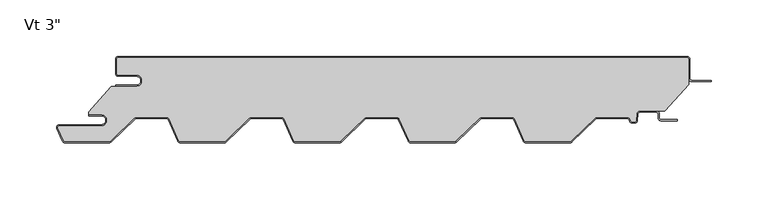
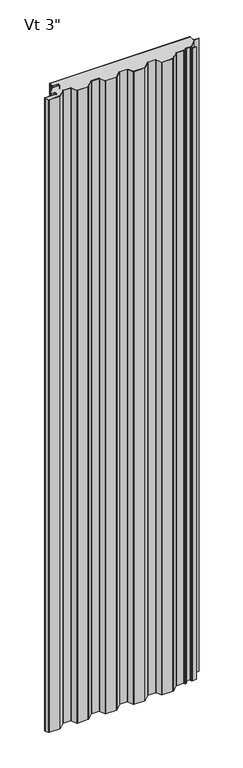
"""IFC4 building model written with IfcOpenShell, lengths in millimetres: plate geometry."""

from ifc_helpers import new_model, si_unit, point, frame_2d, origin, origin_with_axes, place, context, project, spatial, polyline, circle_curve, trimmed, segment, composite_curve, outline, extrude, source, transform, mapped, element, save


def plate_69ded947(model_context):
    return source(origin(), model_context, "Body", "SweptSolid", [
        extrude(outline(composite_curve([segment(trimmed(circle_curve(frame_2d((-234.94375, -21.4324412)), 4.96875), [point((-234.94375, -26.4011912))], [point((-234.94375, -16.4636912))], True, "CARTESIAN"), True, "CONTINUOUS"), segment(polyline([(-234.94375, -16.4636912), (-250.81875, -16.4636912)]), True, "CONTINUOUS"), segment(trimmed(circle_curve(frame_2d((-250.81875, -15.0824412)), 1.38125), [point((-250.81875, -16.4636912))], [point((-252.2, -15.0824412))], False, "CARTESIAN"), True, "CONTINUOUS"), segment(polyline([(-252.2, -15.0824412), (-252.2, -2.3824412)]), True, "CONTINUOUS"), segment(trimmed(circle_curve(frame_2d((-250.81875, -2.3824412)), 1.38125), [point((-252.2, -2.3824412))], [point((-250.81875, -1.0011912))], False, "CARTESIAN"), True, "CONTINUOUS"), segment(polyline([(-250.81875, -1.0011912), (250.83125, -1.0011912)]), True, "CONTINUOUS"), segment(trimmed(circle_curve(frame_2d((250.83125, -2.3824412)), 1.38125), [point((250.83125, -1.0011912))], [point((252.2125, -2.3824412))], False, "CARTESIAN"), True, "CONTINUOUS"), segment(polyline([(252.2125, -2.3824412), (252.2125, -24.8719682), (231.3955434, -48.2136912), (208.9683457, -48.2136912)]), True, "CONTINUOUS"), segment(trimmed(circle_curve(frame_2d((208.9683457, -50.8011912)), 2.5875), [point((208.9683457, -48.2136912))], [point((206.3843918, -50.6657719))], True, "CARTESIAN"), True, "CONTINUOUS"), segment(polyline([(206.3843918, -50.6657719), (206.0823155, -56.4297302)]), True, "CONTINUOUS"), segment(trimmed(circle_curve(frame_2d((204.7029585, -56.3574412)), 1.38125), [point((206.0823155, -56.4297302))], [point((204.7029585, -57.7386912))], False, "CARTESIAN"), True, "CONTINUOUS"), segment(polyline([(204.7029585, -57.7386912), (202.3754519, -57.7386912)]), True, "CONTINUOUS"), segment(trimmed(circle_curve(frame_2d((202.3754519, -56.3574412)), 1.38125), [point((202.3754519, -57.7386912))], [point((201.1124516, -56.9166208))], False, "CARTESIAN"), True, "CONTINUOUS"), segment(polyline([(201.1124516, -56.9166208), (200.3640306, -55.2261871)]), True, "CONTINUOUS"), segment(trimmed(circle_curve(frame_2d((197.9980481, -56.2737)), 2.5875), [point((200.3640306, -55.2261871))], [point((197.9980481, -53.6862))], True, "CARTESIAN"), True, "CONTINUOUS"), segment(polyline([(197.9980481, -53.6862), (171.4742003, -53.6862)]), True, "CONTINUOUS"), segment(trimmed(circle_curve(frame_2d((171.4742003, -56.2737)), 2.5875), [point((171.4742003, -53.6862))], [point((169.6745496, -54.4145567))], True, "CARTESIAN"), True, "CONTINUOUS"), segment(polyline([(169.6745496, -54.4145567), (148.6036462, -74.8111912)]), True, "CONTINUOUS"), segment(trimmed(circle_curve(frame_2d((147.6429631, -73.81875)), 1.38125), [point((148.6036462, -74.8111912))], [point((147.6429631, -75.2))], False, "CARTESIAN"), True, "CONTINUOUS"), segment(polyline([(147.6429631, -75.2), (108.5062557, -75.2)]), True, "CONTINUOUS"), segment(trimmed(circle_curve(frame_2d((108.5062557, -73.81875)), 1.38125), [point((108.5062557, -75.2))], [point((107.2432554, -74.3779296))], False, "CARTESIAN"), True, "CONTINUOUS"), segment(polyline([(107.2432554, -74.3779296), (98.7640306, -55.2261871)]), True, "CONTINUOUS"), segment(trimmed(circle_curve(frame_2d((96.3980481, -56.2737)), 2.5875), [point((98.7640306, -55.2261871))], [point((96.3980481, -53.6862))], True, "CARTESIAN"), True, "CONTINUOUS"), segment(polyline([(96.3980481, -53.6862), (69.8742003, -53.6862)]), True, "CONTINUOUS"), segment(trimmed(circle_curve(frame_2d((69.8742003, -56.2737)), 2.5875), [point((69.8742003, -53.6862))], [point((68.0745496, -54.4145567))], True, "CARTESIAN"), True, "CONTINUOUS"), segment(polyline([(68.0745496, -54.4145567), (47.0036462, -74.8111912)]), True, "CONTINUOUS"), segment(trimmed(circle_curve(frame_2d((46.0429631, -73.81875)), 1.38125), [point((47.0036462, -74.8111912))], [point((46.0429631, -75.2))], False, "CARTESIAN"), True, "CONTINUOUS"), segment(polyline([(46.0429631, -75.2), (6.9062557, -75.2)]), True, "CONTINUOUS"), segment(trimmed(circle_curve(frame_2d((6.9062557, -73.81875)), 1.38125), [point((6.9062557, -75.2))], [point((5.6432554, -74.3779296))], False, "CARTESIAN"), True, "CONTINUOUS"), segment(polyline([(5.6432554, -74.3779296), (-2.8359694, -55.2261871)]), True, "CONTINUOUS"), segment(trimmed(circle_curve(frame_2d((-5.2019519, -56.2737)), 2.5875), [point((-2.8359694, -55.2261871))], [point((-5.2019519, -53.6862))], True, "CARTESIAN"), True, "CONTINUOUS"), segment(polyline([(-5.2019519, -53.6862), (-31.7257997, -53.6862)]), True, "CONTINUOUS"), segment(trimmed(circle_curve(frame_2d((-31.7257997, -56.2737)), 2.5875), [point((-31.7257997, -53.6862))], [point((-33.5254504, -54.4145567))], True, "CARTESIAN"), True, "CONTINUOUS"), segment(polyline([(-33.5254504, -54.4145567), (-54.5963538, -74.8111912)]), True, "CONTINUOUS"), segment(trimmed(circle_curve(frame_2d((-55.5570369, -73.81875)), 1.38125), [point((-54.5963538, -74.8111912))], [point((-55.5570369, -75.2))], False, "CARTESIAN"), True, "CONTINUOUS"), segment(polyline([(-55.5570369, -75.2), (-94.6937443, -75.2)]), True, "CONTINUOUS"), segment(trimmed(circle_curve(frame_2d((-94.6937443, -73.81875)), 1.38125), [point((-94.6937443, -75.2))], [point((-95.9567446, -74.3779296))], False, "CARTESIAN"), True, "CONTINUOUS"), segment(polyline([(-95.9567446, -74.3779296), (-104.4359694, -55.2261871)]), True, "CONTINUOUS"), segment(trimmed(circle_curve(frame_2d((-106.8019519, -56.2737)), 2.5875), [point((-104.4359694, -55.2261871))], [point((-106.8019519, -53.6862))], True, "CARTESIAN"), True, "CONTINUOUS"), segment(polyline([(-106.8019519, -53.6862), (-133.3257997, -53.6862)]), True, "CONTINUOUS"), segment(trimmed(circle_curve(frame_2d((-133.3257997, -56.2737)), 2.5875), [point((-133.3257997, -53.6862))], [point((-135.1254504, -54.4145567))], True, "CARTESIAN"), True, "CONTINUOUS"), segment(polyline([(-135.1254504, -54.4145567), (-156.1963538, -74.8111912)]), True, "CONTINUOUS"), segment(trimmed(circle_curve(frame_2d((-157.1570369, -73.81875)), 1.38125), [point((-156.1963538, -74.8111912))], [point((-157.1570369, -75.2))], False, "CARTESIAN"), True, "CONTINUOUS"), segment(polyline([(-157.1570369, -75.2), (-196.2937443, -75.2)]), True, "CONTINUOUS"), segment(trimmed(circle_curve(frame_2d((-196.2937443, -73.81875)), 1.38125), [point((-196.2937443, -75.2))], [point((-197.5567446, -74.3779296))], False, "CARTESIAN"), True, "CONTINUOUS"), segment(polyline([(-197.5567446, -74.3779296), (-206.0359694, -55.2261871)]), True, "CONTINUOUS"), segment(trimmed(circle_curve(frame_2d((-208.4019519, -56.2737)), 2.5875), [point((-206.0359694, -55.2261871))], [point((-208.4019519, -53.6862))], True, "CARTESIAN"), True, "CONTINUOUS"), segment(polyline([(-208.4019519, -53.6862), (-234.9257997, -53.6862)]), True, "CONTINUOUS"), segment(trimmed(circle_curve(frame_2d((-234.9257997, -56.2737)), 2.5875), [point((-234.9257997, -53.6862))], [point((-236.7254504, -54.4145567))], True, "CARTESIAN"), True, "CONTINUOUS"), segment(polyline([(-236.7254504, -54.4145567), (-257.5876931, -74.6092077)]), True, "CONTINUOUS"), segment(trimmed(circle_curve(frame_2d((-259.0474446, -73.1012)), 2.0988), [point((-257.5876931, -74.6092077))], [point((-259.0474446, -75.2))], False, "CARTESIAN"), True, "CONTINUOUS"), segment(polyline([(-259.0474446, -75.2), (-297.8937443, -75.2)]), True, "CONTINUOUS"), segment(trimmed(circle_curve(frame_2d((-297.8937443, -73.81875)), 1.38125), [point((-297.8937443, -75.2))], [point((-299.1567446, -74.3779296))], False, "CARTESIAN"), True, "CONTINUOUS"), segment(polyline([(-299.1567446, -74.3779296), (-304.0761552, -63.2666208)]), True, "CONTINUOUS"), segment(trimmed(circle_curve(frame_2d((-302.8131549, -62.7074412)), 1.38125), [point((-304.0761552, -63.2666208))], [point((-302.8131549, -61.3261912))], False, "CARTESIAN"), True, "CONTINUOUS"), segment(polyline([(-302.8131549, -61.3261912), (-265.9, -61.3261912)]), True, "CONTINUOUS"), segment(trimmed(circle_curve(frame_2d((-265.9, -56.3574412)), 4.96875), [point((-265.9, -61.3261912))], [point((-265.9, -51.3886912))], True, "CARTESIAN"), True, "CONTINUOUS"), segment(polyline([(-265.9, -51.3886912), (-277.0125, -51.3886912), (-277.0125, -49.233822), (-257.1914112, -26.4011912), (-234.94375, -26.4011912)]), True, "CONTINUOUS")], self_intersect=False)), origin_with_axes(), (0.0, 0.0, 1.0), 2400.0),
        extrude(outline(composite_curve([segment(polyline([(-253.2, -25.4), (-234.94375, -25.4)]), True, "CONTINUOUS"), segment(trimmed(circle_curve(frame_2d((-234.94375, -21.43125)), 3.96875), [point((-234.94375, -25.4))], [point((-234.94375, -17.4625))], True, "CARTESIAN"), True, "CONTINUOUS"), segment(polyline([(-234.94375, -17.4625), (-250.81875, -17.4625)]), True, "CONTINUOUS"), segment(trimmed(circle_curve(frame_2d((-250.81875, -15.08125)), 2.38125), [point((-250.81875, -17.4625))], [point((-253.2, -15.08125))], False, "CARTESIAN"), True, "CONTINUOUS"), segment(polyline([(-253.2, -15.08125), (-253.2, -2.38125)]), True, "CONTINUOUS"), segment(trimmed(circle_curve(frame_2d((-250.81875, -2.38125)), 2.38125), [point((-253.2, -2.38125))], [point((-250.81875, 0.0))], False, "CARTESIAN"), True, "CONTINUOUS"), segment(polyline([(-250.81875, 0.0), (250.83125, 0.0)]), True, "CONTINUOUS"), segment(trimmed(circle_curve(frame_2d((250.83125, -2.38125)), 2.38125), [point((250.83125, 0.0))], [point((253.2125, -2.38125))], False, "CARTESIAN"), True, "CONTINUOUS"), segment(polyline([(253.2125, -2.38125), (253.2125, -19.446875)]), True, "CONTINUOUS"), segment(trimmed(circle_curve(frame_2d((254.8, -19.446875)), 1.5875), [point((253.2125, -19.446875))], [point((254.8, -21.034375))], True, "CARTESIAN"), True, "CONTINUOUS"), segment(polyline([(254.8, -21.034375), (272.2625, -21.034375), (272.2625, -22.034375), (254.8, -22.034375)]), True, "CONTINUOUS"), segment(trimmed(circle_curve(frame_2d((254.8, -19.446875)), 2.5875), [point((254.8, -22.034375))], [point((252.2125, -19.446875))], False, "CARTESIAN"), True, "CONTINUOUS"), segment(polyline([(252.2125, -19.446875), (252.2125, -2.38125)]), True, "CONTINUOUS"), segment(trimmed(circle_curve(frame_2d((250.83125, -2.38125)), 1.38125), [point((252.2125, -2.38125))], [point((250.83125, -1.0))], True, "CARTESIAN"), True, "CONTINUOUS"), segment(polyline([(250.83125, -1.0), (-250.81875, -1.0)]), True, "CONTINUOUS"), segment(trimmed(circle_curve(frame_2d((-250.81875, -2.38125)), 1.38125), [point((-250.81875, -1.0))], [point((-252.2, -2.38125))], True, "CARTESIAN"), True, "CONTINUOUS"), segment(polyline([(-252.2, -2.38125), (-252.2, -15.08125)]), True, "CONTINUOUS"), segment(trimmed(circle_curve(frame_2d((-250.81875, -15.08125)), 1.38125), [point((-252.2, -15.08125))], [point((-250.81875, -16.4625))], True, "CARTESIAN"), True, "CONTINUOUS"), segment(polyline([(-250.81875, -16.4625), (-234.94375, -16.4625)]), True, "CONTINUOUS"), segment(trimmed(circle_curve(frame_2d((-234.94375, -21.43125)), 4.96875), [point((-234.94375, -16.4625))], [point((-234.94375, -26.4))], False, "CARTESIAN"), True, "CONTINUOUS"), segment(polyline([(-234.94375, -26.4), (-253.2, -26.4), (-253.2, -25.4)]), True, "CONTINUOUS")], self_intersect=False)), origin_with_axes(), (0.0, 0.0, 1.0), 2400.0),
        extrude(outline(composite_curve([segment(trimmed(circle_curve(frame_2d((-265.9, -56.3574412)), 3.96875), [point((-265.9, -60.3261912))], [point((-265.9, -52.3886912))], True, "CARTESIAN"), True, "CONTINUOUS"), segment(polyline([(-265.9, -52.3886912), (-277.0125, -52.3886912), (-277.0125, -51.3886912), (-265.9, -51.3886912)]), True, "CONTINUOUS"), segment(trimmed(circle_curve(frame_2d((-265.9, -56.3574412)), 4.96875), [point((-265.9, -51.3886912))], [point((-265.9, -61.3261912))], False, "CARTESIAN"), True, "CONTINUOUS"), segment(polyline([(-265.9, -61.3261912), (-302.8131549, -61.3261912)]), True, "CONTINUOUS"), segment(trimmed(circle_curve(frame_2d((-302.8131549, -62.7074412)), 1.38125), [point((-302.8131549, -61.3261912))], [point((-304.0761552, -63.2666208))], True, "CARTESIAN"), True, "CONTINUOUS"), segment(polyline([(-304.0761552, -63.2666208), (-299.1567446, -74.3779296)]), True, "CONTINUOUS"), segment(trimmed(circle_curve(frame_2d((-297.8937443, -73.81875)), 1.38125), [point((-299.1567446, -74.3779296))], [point((-297.8937443, -75.2))], True, "CARTESIAN"), True, "CONTINUOUS"), segment(polyline([(-297.8937443, -75.2), (-259.0474446, -75.2)]), True, "CONTINUOUS"), segment(trimmed(circle_curve(frame_2d((-259.0474446, -73.1012)), 2.0988), [point((-259.0474446, -75.2))], [point((-257.5876931, -74.6092077))], True, "CARTESIAN"), True, "CONTINUOUS"), segment(polyline([(-257.5876931, -74.6092077), (-236.7254504, -54.4145567)]), True, "CONTINUOUS"), segment(trimmed(circle_curve(frame_2d((-234.9257997, -56.2737)), 2.5875), [point((-236.7254504, -54.4145567))], [point((-234.9257997, -53.6862))], False, "CARTESIAN"), True, "CONTINUOUS"), segment(polyline([(-234.9257997, -53.6862), (-208.4019519, -53.6862)]), True, "CONTINUOUS"), segment(trimmed(circle_curve(frame_2d((-208.4019519, -56.2737)), 2.5875), [point((-208.4019519, -53.6862))], [point((-206.0359694, -55.2261871))], False, "CARTESIAN"), True, "CONTINUOUS"), segment(polyline([(-206.0359694, -55.2261871), (-197.5567446, -74.3779296)]), True, "CONTINUOUS"), segment(trimmed(circle_curve(frame_2d((-196.2937443, -73.81875)), 1.38125), [point((-197.5567446, -74.3779296))], [point((-196.2937443, -75.2))], True, "CARTESIAN"), True, "CONTINUOUS"), segment(polyline([(-196.2937443, -75.2), (-157.1570369, -75.2)]), True, "CONTINUOUS"), segment(trimmed(circle_curve(frame_2d((-157.1570369, -73.81875)), 1.38125), [point((-157.1570369, -75.2))], [point((-156.1963538, -74.8111912))], True, "CARTESIAN"), True, "CONTINUOUS"), segment(polyline([(-156.1963538, -74.8111912), (-135.1254504, -54.4145567)]), True, "CONTINUOUS"), segment(trimmed(circle_curve(frame_2d((-133.3257997, -56.2737)), 2.5875), [point((-135.1254504, -54.4145567))], [point((-133.3257997, -53.6862))], False, "CARTESIAN"), True, "CONTINUOUS"), segment(polyline([(-133.3257997, -53.6862), (-106.8019519, -53.6862)]), True, "CONTINUOUS"), segment(trimmed(circle_curve(frame_2d((-106.8019519, -56.2737)), 2.5875), [point((-106.8019519, -53.6862))], [point((-104.4359694, -55.2261871))], False, "CARTESIAN"), True, "CONTINUOUS"), segment(polyline([(-104.4359694, -55.2261871), (-95.9567446, -74.3779296)]), True, "CONTINUOUS"), segment(trimmed(circle_curve(frame_2d((-94.6937443, -73.81875)), 1.38125), [point((-95.9567446, -74.3779296))], [point((-94.6937443, -75.2))], True, "CARTESIAN"), True, "CONTINUOUS"), segment(polyline([(-94.6937443, -75.2), (-55.5570369, -75.2)]), True, "CONTINUOUS"), segment(trimmed(circle_curve(frame_2d((-55.5570369, -73.81875)), 1.38125), [point((-55.5570369, -75.2))], [point((-54.5963538, -74.8111912))], True, "CARTESIAN"), True, "CONTINUOUS"), segment(polyline([(-54.5963538, -74.8111912), (-33.5254504, -54.4145567)]), True, "CONTINUOUS"), segment(trimmed(circle_curve(frame_2d((-31.7257997, -56.2737)), 2.5875), [point((-33.5254504, -54.4145567))], [point((-31.7257997, -53.6862))], False, "CARTESIAN"), True, "CONTINUOUS"), segment(polyline([(-31.7257997, -53.6862), (-5.2019519, -53.6862)]), True, "CONTINUOUS"), segment(trimmed(circle_curve(frame_2d((-5.2019519, -56.2737)), 2.5875), [point((-5.2019519, -53.6862))], [point((-2.8359694, -55.2261871))], False, "CARTESIAN"), True, "CONTINUOUS"), segment(polyline([(-2.8359694, -55.2261871), (5.6432554, -74.3779296)]), True, "CONTINUOUS"), segment(trimmed(circle_curve(frame_2d((6.9062557, -73.81875)), 1.38125), [point((5.6432554, -74.3779296))], [point((6.9062557, -75.2))], True, "CARTESIAN"), True, "CONTINUOUS"), segment(polyline([(6.9062557, -75.2), (46.0429631, -75.2)]), True, "CONTINUOUS"), segment(trimmed(circle_curve(frame_2d((46.0429631, -73.81875)), 1.38125), [point((46.0429631, -75.2))], [point((47.0036462, -74.8111912))], True, "CARTESIAN"), True, "CONTINUOUS"), segment(polyline([(47.0036462, -74.8111912), (68.0745496, -54.4145567)]), True, "CONTINUOUS"), segment(trimmed(circle_curve(frame_2d((69.8742003, -56.2737)), 2.5875), [point((68.0745496, -54.4145567))], [point((69.8742003, -53.6862))], False, "CARTESIAN"), True, "CONTINUOUS"), segment(polyline([(69.8742003, -53.6862), (96.3980481, -53.6862)]), True, "CONTINUOUS"), segment(trimmed(circle_curve(frame_2d((96.3980481, -56.2737)), 2.5875), [point((96.3980481, -53.6862))], [point((98.7640306, -55.2261871))], False, "CARTESIAN"), True, "CONTINUOUS"), segment(polyline([(98.7640306, -55.2261871), (107.2432554, -74.3779296)]), True, "CONTINUOUS"), segment(trimmed(circle_curve(frame_2d((108.5062557, -73.81875)), 1.38125), [point((107.2432554, -74.3779296))], [point((108.5062557, -75.2))], True, "CARTESIAN"), True, "CONTINUOUS"), segment(polyline([(108.5062557, -75.2), (147.6429631, -75.2)]), True, "CONTINUOUS"), segment(trimmed(circle_curve(frame_2d((147.6429631, -73.81875)), 1.38125), [point((147.6429631, -75.2))], [point((148.6036462, -74.8111912))], True, "CARTESIAN"), True, "CONTINUOUS"), segment(polyline([(148.6036462, -74.8111912), (169.6745496, -54.4145567)]), True, "CONTINUOUS"), segment(trimmed(circle_curve(frame_2d((171.4742003, -56.2737)), 2.5875), [point((169.6745496, -54.4145567))], [point((171.4742003, -53.6862))], False, "CARTESIAN"), True, "CONTINUOUS"), segment(polyline([(171.4742003, -53.6862), (197.9980481, -53.6862)]), True, "CONTINUOUS"), segment(trimmed(circle_curve(frame_2d((197.9980481, -56.2737)), 2.5875), [point((197.9980481, -53.6862))], [point((200.3640306, -55.2261871))], False, "CARTESIAN"), True, "CONTINUOUS"), segment(polyline([(200.3640306, -55.2261871), (201.1124516, -56.9166208)]), True, "CONTINUOUS"), segment(trimmed(circle_curve(frame_2d((202.3754519, -56.3574412)), 1.38125), [point((201.1124516, -56.9166208))], [point((202.3754519, -57.7386912))], True, "CARTESIAN"), True, "CONTINUOUS"), segment(polyline([(202.3754519, -57.7386912), (204.7029585, -57.7386912)]), True, "CONTINUOUS"), segment(trimmed(circle_curve(frame_2d((204.7029585, -56.3574412)), 1.38125), [point((204.7029585, -57.7386912))], [point((206.0823155, -56.4297302))], True, "CARTESIAN"), True, "CONTINUOUS"), segment(polyline([(206.0823155, -56.4297302), (206.3843918, -50.6657719)]), True, "CONTINUOUS"), segment(trimmed(circle_curve(frame_2d((208.9683457, -50.8011912)), 2.5875), [point((206.3843918, -50.6657719))], [point((208.9683457, -48.2136912))], False, "CARTESIAN"), True, "CONTINUOUS"), segment(polyline([(208.9683457, -48.2136912), (223.84375, -48.2136912)]), True, "CONTINUOUS"), segment(trimmed(circle_curve(frame_2d((223.84375, -50.8011912)), 2.5875), [point((223.84375, -48.2136912))], [point((226.43125, -50.8011912))], False, "CARTESIAN"), True, "CONTINUOUS"), segment(polyline([(226.43125, -50.8011912), (226.43125, -54.3730662)]), True, "CONTINUOUS"), segment(trimmed(circle_curve(frame_2d((227.8125, -54.3730662)), 1.38125), [point((226.43125, -54.3730662))], [point((227.8125, -55.7543162))], True, "CARTESIAN"), True, "CONTINUOUS"), segment(polyline([(227.8125, -55.7543162), (242.1, -55.7543162), (242.1, -56.7543162), (227.8125, -56.7543162)]), True, "CONTINUOUS"), segment(trimmed(circle_curve(frame_2d((227.8125, -54.3730662)), 2.38125), [point((227.8125, -56.7543162))], [point((225.43125, -54.3730662))], False, "CARTESIAN"), True, "CONTINUOUS"), segment(polyline([(225.43125, -54.3730662), (225.43125, -50.8011912)]), True, "CONTINUOUS"), segment(trimmed(circle_curve(frame_2d((223.84375, -50.8011912)), 1.5875), [point((225.43125, -50.8011912))], [point((223.84375, -49.2136912))], True, "CARTESIAN"), True, "CONTINUOUS"), segment(polyline([(223.84375, -49.2136912), (208.9683457, -49.2136912)]), True, "CONTINUOUS"), segment(trimmed(circle_curve(frame_2d((208.9683457, -50.8011912)), 1.5875), [point((208.9683457, -49.2136912))], [point((207.3830213, -50.7181078))], True, "CARTESIAN"), True, "CONTINUOUS"), segment(polyline([(207.3830213, -50.7181078), (207.0809451, -56.4820662)]), True, "CONTINUOUS"), segment(trimmed(circle_curve(frame_2d((204.7029585, -56.3574412)), 2.38125), [point((207.0809451, -56.4820662))], [point((204.7029585, -58.7386912))], False, "CARTESIAN"), True, "CONTINUOUS"), segment(polyline([(204.7029585, -58.7386912), (202.3754519, -58.7386912)]), True, "CONTINUOUS"), segment(trimmed(circle_curve(frame_2d((202.3754519, -56.3574412)), 2.38125), [point((202.3754519, -58.7386912))], [point((200.1980623, -57.3214567))], False, "CARTESIAN"), True, "CONTINUOUS"), segment(polyline([(200.1980623, -57.3214567), (199.4496412, -55.631023)]), True, "CONTINUOUS"), segment(trimmed(circle_curve(frame_2d((197.9980481, -56.2737)), 1.5875), [point((199.4496412, -55.631023))], [point((197.9980481, -54.6862))], True, "CARTESIAN"), True, "CONTINUOUS"), segment(polyline([(197.9980481, -54.6862), (171.4742003, -54.6862)]), True, "CONTINUOUS"), segment(trimmed(circle_curve(frame_2d((171.4742003, -56.2737)), 1.5875), [point((171.4742003, -54.6862))], [point((170.3700668, -55.1330662))], True, "CARTESIAN"), True, "CONTINUOUS"), segment(polyline([(170.3700668, -55.1330662), (149.2991634, -75.5297007)]), True, "CONTINUOUS"), segment(trimmed(circle_curve(frame_2d((147.6429631, -73.81875)), 2.38125), [point((149.2991634, -75.5297007))], [point((147.6429631, -76.2))], False, "CARTESIAN"), True, "CONTINUOUS"), segment(polyline([(147.6429631, -76.2), (108.5062557, -76.2)]), True, "CONTINUOUS"), segment(trimmed(circle_curve(frame_2d((108.5062557, -73.81875)), 2.38125), [point((108.5062557, -76.2))], [point((106.3288661, -74.7827655))], False, "CARTESIAN"), True, "CONTINUOUS"), segment(polyline([(106.3288661, -74.7827655), (97.8496412, -55.631023)]), True, "CONTINUOUS"), segment(trimmed(circle_curve(frame_2d((96.3980481, -56.2737)), 1.5875), [point((97.8496412, -55.631023))], [point((96.3980481, -54.6862))], True, "CARTESIAN"), True, "CONTINUOUS"), segment(polyline([(96.3980481, -54.6862), (69.8742003, -54.6862)]), True, "CONTINUOUS"), segment(trimmed(circle_curve(frame_2d((69.8742003, -56.2737)), 1.5875), [point((69.8742003, -54.6862))], [point((68.7700668, -55.1330662))], True, "CARTESIAN"), True, "CONTINUOUS"), segment(polyline([(68.7700668, -55.1330662), (47.6991634, -75.5297007)]), True, "CONTINUOUS"), segment(trimmed(circle_curve(frame_2d((46.0429631, -73.81875)), 2.38125), [point((47.6991634, -75.5297007))], [point((46.0429631, -76.2))], False, "CARTESIAN"), True, "CONTINUOUS"), segment(polyline([(46.0429631, -76.2), (6.9062557, -76.2)]), True, "CONTINUOUS"), segment(trimmed(circle_curve(frame_2d((6.9062557, -73.81875)), 2.38125), [point((6.9062557, -76.2))], [point((4.7288661, -74.7827655))], False, "CARTESIAN"), True, "CONTINUOUS"), segment(polyline([(4.7288661, -74.7827655), (-3.7503588, -55.631023)]), True, "CONTINUOUS"), segment(trimmed(circle_curve(frame_2d((-5.2019519, -56.2737)), 1.5875), [point((-3.7503588, -55.631023))], [point((-5.2019519, -54.6862))], True, "CARTESIAN"), True, "CONTINUOUS"), segment(polyline([(-5.2019519, -54.6862), (-31.7257997, -54.6862)]), True, "CONTINUOUS"), segment(trimmed(circle_curve(frame_2d((-31.7257997, -56.2737)), 1.5875), [point((-31.7257997, -54.6862))], [point((-32.8299332, -55.1330662))], True, "CARTESIAN"), True, "CONTINUOUS"), segment(polyline([(-32.8299332, -55.1330662), (-53.9008366, -75.5297007)]), True, "CONTINUOUS"), segment(trimmed(circle_curve(frame_2d((-55.5570369, -73.81875)), 2.38125), [point((-53.9008366, -75.5297007))], [point((-55.5570369, -76.2))], False, "CARTESIAN"), True, "CONTINUOUS"), segment(polyline([(-55.5570369, -76.2), (-94.6937443, -76.2)]), True, "CONTINUOUS"), segment(trimmed(circle_curve(frame_2d((-94.6937443, -73.81875)), 2.38125), [point((-94.6937443, -76.2))], [point((-96.8711339, -74.7827655))], False, "CARTESIAN"), True, "CONTINUOUS"), segment(polyline([(-96.8711339, -74.7827655), (-105.3503588, -55.631023)]), True, "CONTINUOUS"), segment(trimmed(circle_curve(frame_2d((-106.8019519, -56.2737)), 1.5875), [point((-105.3503588, -55.631023))], [point((-106.8019519, -54.6862))], True, "CARTESIAN"), True, "CONTINUOUS"), segment(polyline([(-106.8019519, -54.6862), (-133.3257997, -54.6862)]), True, "CONTINUOUS"), segment(trimmed(circle_curve(frame_2d((-133.3257997, -56.2737)), 1.5875), [point((-133.3257997, -54.6862))], [point((-134.4299332, -55.1330662))], True, "CARTESIAN"), True, "CONTINUOUS"), segment(polyline([(-134.4299332, -55.1330662), (-155.5008366, -75.5297007)]), True, "CONTINUOUS"), segment(trimmed(circle_curve(frame_2d((-157.1570369, -73.81875)), 2.38125), [point((-155.5008366, -75.5297007))], [point((-157.1570369, -76.2))], False, "CARTESIAN"), True, "CONTINUOUS"), segment(polyline([(-157.1570369, -76.2), (-196.2937443, -76.2)]), True, "CONTINUOUS"), segment(trimmed(circle_curve(frame_2d((-196.2937443, -73.81875)), 2.38125), [point((-196.2937443, -76.2))], [point((-198.4711339, -74.7827655))], False, "CARTESIAN"), True, "CONTINUOUS"), segment(polyline([(-198.4711339, -74.7827655), (-206.9503588, -55.631023)]), True, "CONTINUOUS"), segment(trimmed(circle_curve(frame_2d((-208.4019519, -56.2737)), 1.5875), [point((-206.9503588, -55.631023))], [point((-208.4019519, -54.6862))], True, "CARTESIAN"), True, "CONTINUOUS"), segment(polyline([(-208.4019519, -54.6862), (-234.9257997, -54.6862)]), True, "CONTINUOUS"), segment(trimmed(circle_curve(frame_2d((-234.9257997, -56.2737)), 1.5875), [point((-234.9257997, -54.6862))], [point((-236.0299332, -55.1330662))], True, "CARTESIAN"), True, "CONTINUOUS"), segment(polyline([(-236.0299332, -55.1330662), (-256.8921759, -75.3277172)]), True, "CONTINUOUS"), segment(trimmed(circle_curve(frame_2d((-259.0474446, -73.1012)), 3.0988), [point((-256.8921759, -75.3277172))], [point((-259.0474446, -76.2))], False, "CARTESIAN"), True, "CONTINUOUS"), segment(polyline([(-259.0474446, -76.2), (-297.8937443, -76.2)]), True, "CONTINUOUS"), segment(trimmed(circle_curve(frame_2d((-297.8937443, -73.81875)), 2.38125), [point((-297.8937443, -76.2))], [point((-300.0711339, -74.7827655))], False, "CARTESIAN"), True, "CONTINUOUS"), segment(polyline([(-300.0711339, -74.7827655), (-304.9905446, -63.6714567)]), True, "CONTINUOUS"), segment(trimmed(circle_curve(frame_2d((-302.8131549, -62.7074412)), 2.38125), [point((-304.9905446, -63.6714567))], [point((-302.8131549, -60.3261912))], False, "CARTESIAN"), True, "CONTINUOUS"), segment(polyline([(-302.8131549, -60.3261912), (-265.9, -60.3261912)]), True, "CONTINUOUS")], self_intersect=False)), origin_with_axes(), (0.0, 0.0, 1.0), 2400.0),
    ])


if __name__ == "__main__":
    model = new_model("IFC4")
    model_context = context("Model", 3, world=origin())
    ifc_project = project(units=[si_unit("LENGTHUNIT", "METRE", prefix="MILLI")], contexts=[model_context])
    site = spatial("IfcSite", under=ifc_project)
    building = spatial("IfcBuilding", under=site)
    placement = place(None, origin())
    plate_shape = plate_69ded947(model_context)
    element("IfcPlate", 1, ObjectType="KIP-20-DWR-R19-CP-Vt-S : Vt 3\"", at=placement, inside=building, context=model_context, shape_type="MappedRepresentation", body=[
        mapped(plate_shape, transform((0.0, 0.0, 0.0), x_axis=(1.0, 0.0, 0.0), y_axis=(0.0, 1.0, 0.0), z_axis=(0.0, 0.0, 1.0))),
    ])
    save(model, "model.ifc")
